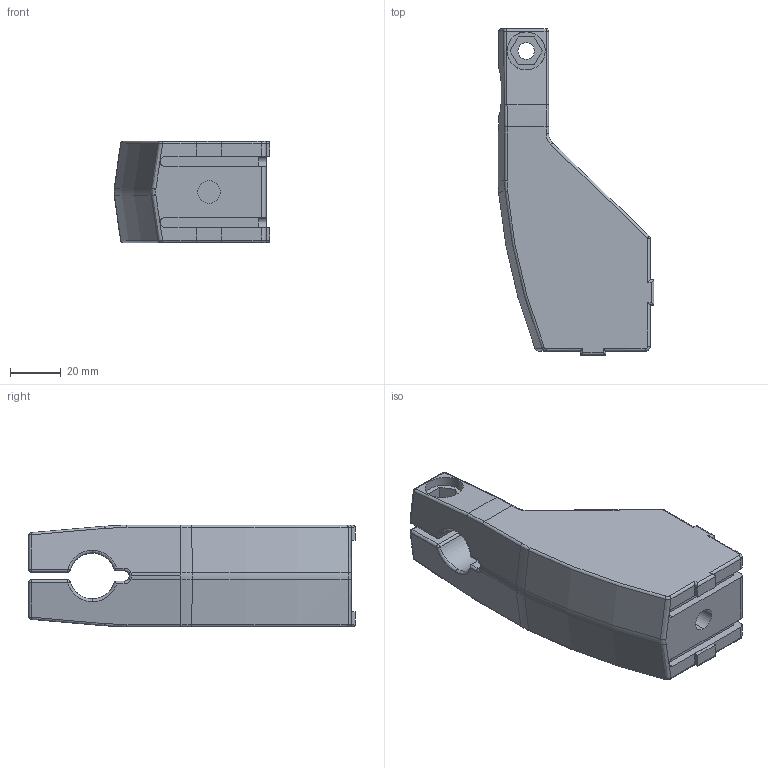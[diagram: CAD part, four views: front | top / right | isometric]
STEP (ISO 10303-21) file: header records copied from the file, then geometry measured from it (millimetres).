
FILE_DESCRIPTION (( 'STEP AP214' ), '1' );
FILE_NAME ('FGRB 40X18.step', '2017-04-05T07:37:55', ( '' ), ( '' ), 'SwSTEP 2.0', 'SolidWorks 2015', '' );
FILE_SCHEMA (( 'AUTOMOTIVE_DESIGN' ));
Length unit declared in the file: millimetre
Products named in the file (1): FGRB 40X18
Bounding box: 61.4 x 128.5 x 40 mm (x, y, z)
Volume: 157157.5 mm3; surface area: 28407.8 mm2
Topology: 1 solids, 1 shells, 192 faces, 460 edges, 266 vertices
Faces by surface type: cylinder 82, plane 62, torus 16, bspline 14, sphere 14, cone 4
Entity records: 5741 total; most frequent: CARTESIAN_POINT 1429, ORIENTED_EDGE 904, DIRECTION 897, EDGE_CURVE 452, AXIS2_PLACEMENT_3D 328, VERTEX_POINT 266, LINE 241, VECTOR 241
